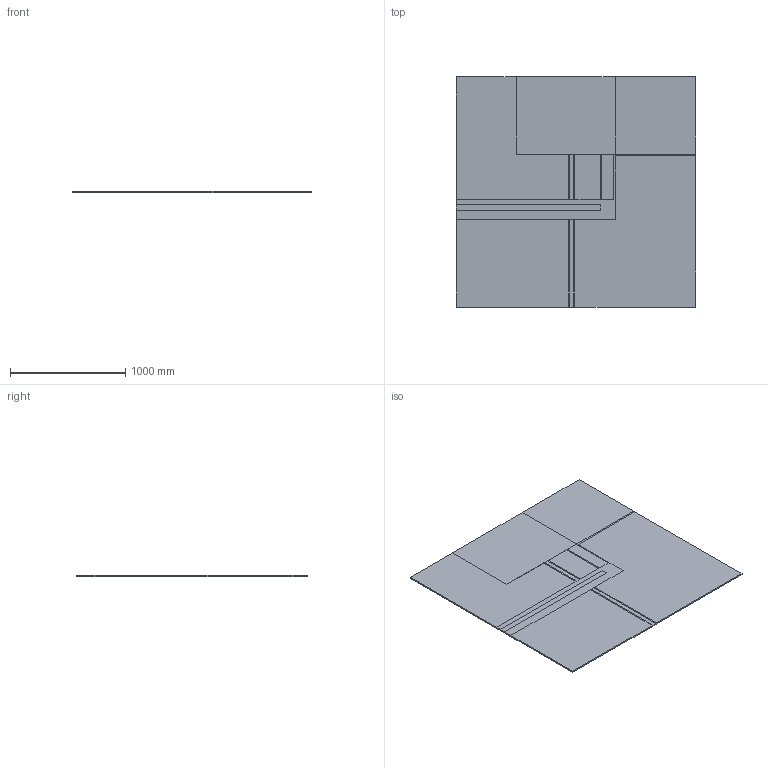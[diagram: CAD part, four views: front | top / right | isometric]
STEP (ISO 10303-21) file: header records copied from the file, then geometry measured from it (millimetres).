
FILE_DESCRIPTION(/* description */ (''),/* implementation_level */ '2;1');
FILE_NAME(/* name */ 'Wendingen-Rug_208x200_3D_20231017',/* time_stamp */ '2023-10-17T14:50:00+02:00',/* author */ (''),/* organization */ (''),/* preprocessor_version */ 'ST-DEVELOPER v16.5',/* originating_system */ 'Rhino 7.34',/* authorisation */ '');
FILE_SCHEMA (('CONFIG_CONTROL_DESIGN'));
Length unit declared in the file: millimetre
Products named in the file (1): Document
Bounding box: 2080 x 2000 x 12 mm (x, y, z)
Volume: 49920000 mm3; surface area: 8783200 mm2
Topology: 11 solids, 11 shells, 102 faces, 240 edges, 160 vertices
Faces by surface type: plane 102
Entity records: 2588 total; most frequent: CARTESIAN_POINT 744, ORIENTED_EDGE 480, EDGE_CURVE 240, B_SPLINE_CURVE_WITH_KNOTS 240, VERTEX_POINT 160, DIRECTION 106, AXIS2_PLACEMENT_3D 104, ADVANCED_FACE 102
